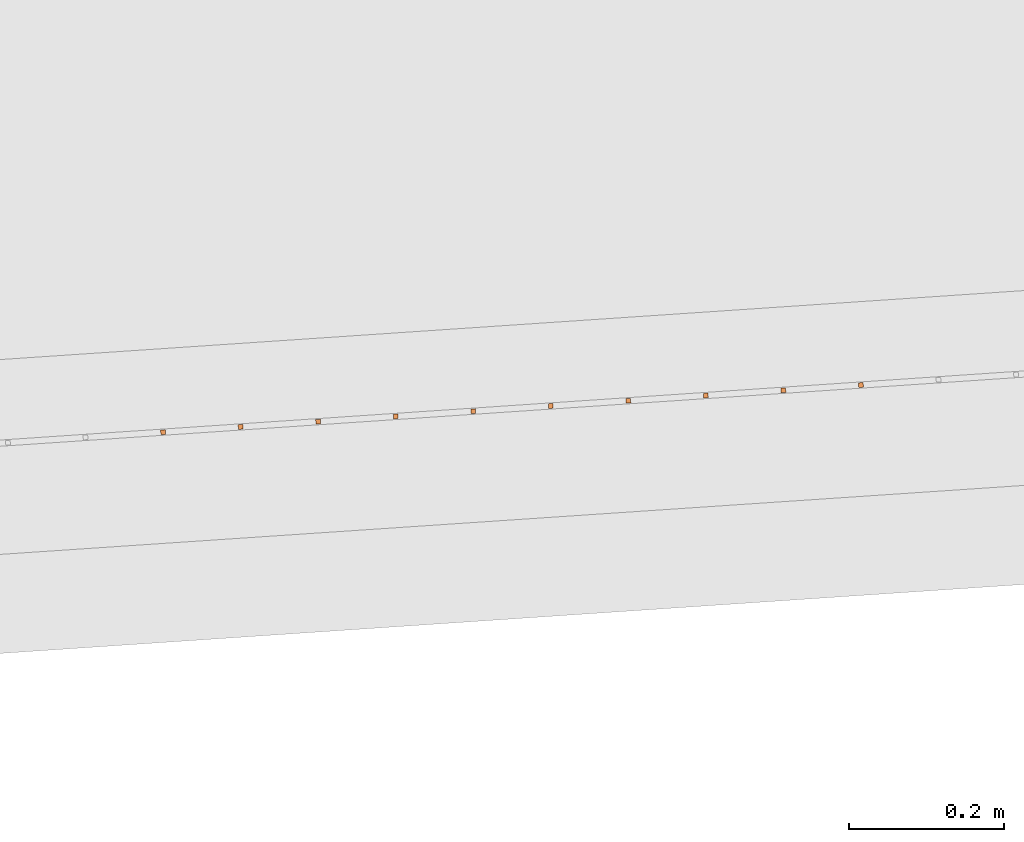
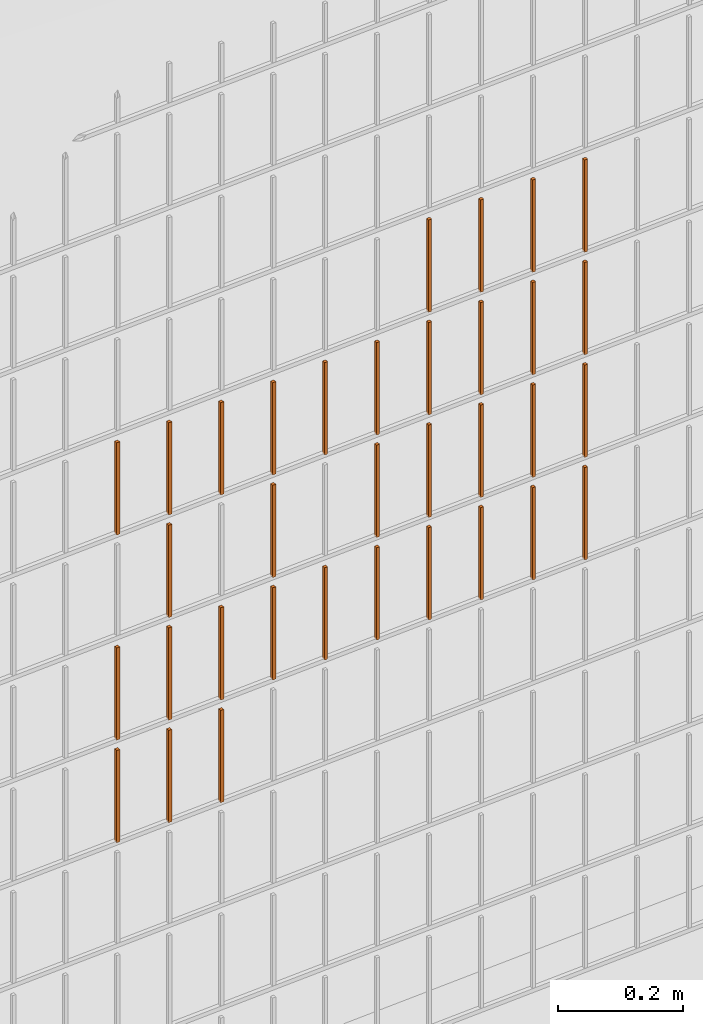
# One storey, part 302 of 1809: 34 proxies, 1 element without a shape of its own.
"""IFC2X3 building model written with IfcOpenShell, lengths in millimetres."""

import ifcopenshell
import ifcopenshell.guid

model = None  # the IFC model being written
_history = None  # IfcOwnerHistory: only IFC2X3 demands one
_inside = {}  # id of a spatial element -> (the spatial element, [elements in it])
_under = {}  # id of a project, library or spatial element -> (it, [spatial elements below it])
_declared = {}  # id of a project -> (the project, [libraries it declares])
_typed = {}  # id of a type object -> (the type object, [elements of that type])
_made_of = {}  # id of a material, layer set ... -> (it, [elements and type objects made of it])


def new_model(schema):
    """Start an empty IFC model of exactly this schema.

    Asked for "IFC4X3", IfcOpenShell would pick the latest addendum, in which some entities
    have other attributes; the version numbers below select the first issue.
    IFC2X3 requires an IfcOwnerHistory on every rooted entity: one is made here for all.
    """
    global model, _history
    if schema == "IFC4X3":
        model = ifcopenshell.file(schema_version=(4, 3, 0, 0))
    else:
        model = ifcopenshell.file(schema=schema)
    _inside.clear()
    _under.clear()
    _declared.clear()
    _typed.clear()
    _made_of.clear()
    _history = None
    if model.schema == "IFC2X3":
        org = make("IfcOrganization", Name="unknown")
        user = make(
            "IfcPersonAndOrganization",
            ThePerson=make("IfcPerson", FamilyName="unknown"),
            TheOrganization=org,
        )
        app = make(
            "IfcApplication",
            ApplicationDeveloper=org,
            Version="unknown",
            ApplicationFullName="unknown",
            ApplicationIdentifier="unknown",
        )
        _history = make(
            "IfcOwnerHistory",
            OwningUser=user,
            OwningApplication=app,
            ChangeAction="ADDED",
            CreationDate=0,
        )
    return model


def make(cls, **values):
    """One entity of the class cls with the attributes given. An attribute that is None is left unset."""
    return model.create_entity(
        cls, **{name: value for name, value in values.items() if value is not None}
    )


def entity(cls, *values):
    """Any entity or typed value of the class cls, its attributes in the order of the schema. None: left unset."""
    e = model.create_entity(cls)
    for i, value in enumerate(values):
        if value is not None:
            e[i] = value
    return e


def rooted(cls, **values):
    """An entity with a GlobalId (a new one), such as an element, a storey or a relation."""
    return make(cls, GlobalId=ifcopenshell.guid.new(), OwnerHistory=_history, **values)


def si_unit(unit_type, name, prefix=None):
    """IfcSIUnit, for example si_unit("LENGTHUNIT", "METRE", prefix="MILLI")."""
    return make("IfcSIUnit", UnitType=unit_type, Prefix=prefix, Name=name)


def converted_unit(unit_type, name, factor, base, dimensions=None, offset=None):
    """IfcConversionBasedUnit, such as the inch: factor (a typed value) times the base unit."""
    return make(
        "IfcConversionBasedUnit"
        if offset is None
        else "IfcConversionBasedUnitWithOffset",
        ConversionOffset=offset,
        Dimensions=None
        if dimensions is None
        else entity("IfcDimensionalExponents", *dimensions),
        UnitType=unit_type,
        Name=name,
        ConversionFactor=make(
            "IfcMeasureWithUnit", ValueComponent=factor, UnitComponent=base
        ),
    )


def derived_unit(unit_type, elements):
    """IfcDerivedUnit: a product of units, each with its exponent."""
    return make(
        "IfcDerivedUnit",
        Elements=[
            make("IfcDerivedUnitElement", Unit=unit, Exponent=power)
            for unit, power in elements
        ],
        UnitType=unit_type,
    )


def money_unit(currency):
    """IfcMonetaryUnit."""
    return make("IfcMonetaryUnit", Currency=currency)


def assignment(units):
    """IfcUnitAssignment: the units of a project."""
    return None if units is None else make("IfcUnitAssignment", Units=units)


def point(xyz):
    """IfcCartesianPoint."""
    return None if xyz is None else make("IfcCartesianPoint", Coordinates=xyz)


def direction(xyz):
    """IfcDirection."""
    return None if xyz is None else make("IfcDirection", DirectionRatios=xyz)


def frame(location, z_axis=None, x_axis=None):
    """IfcAxis2Placement3D, a coordinate frame: its origin and axes. An axis left out is left unset."""
    return make(
        "IfcAxis2Placement3D",
        Location=point(location),
        Axis=direction(z_axis),
        RefDirection=direction(x_axis),
    )


def origin_with_axes():
    """The frame at (0, 0, 0) with the z axis (0, 0, 1) and the x axis (1, 0, 0) written out."""
    return frame((0.0, 0.0, 0.0), z_axis=(0.0, 0.0, 1.0), x_axis=(1.0, 0.0, 0.0))


def place(relative_to, where):
    """IfcLocalPlacement: puts the frame where relative to a parent placement (None: the world)."""
    return make(
        "IfcLocalPlacement", PlacementRelTo=relative_to, RelativePlacement=where
    )


def context(
    kind, dimensions, precision=None, world=None, true_north=None, identifier=None
):
    """IfcGeometricRepresentationContext, for example the 3D "Model" context."""
    return make(
        "IfcGeometricRepresentationContext",
        ContextIdentifier=identifier,
        ContextType=kind,
        CoordinateSpaceDimension=dimensions,
        Precision=precision,
        WorldCoordinateSystem=world,
        TrueNorth=true_north,
    )


def subcontext(parent, identifier, kind, view, scale=None):
    """IfcGeometricRepresentationSubContext, for example "Body" below "Model"."""
    return make(
        "IfcGeometricRepresentationSubContext",
        ContextIdentifier=identifier,
        ContextType=kind,
        ParentContext=parent,
        TargetScale=scale,
        TargetView=view,
    )


def project(units=None, contexts=None):
    """IfcProject with its units and contexts."""
    return rooted(
        "IfcProject",
        Name="project",
        RepresentationContexts=contexts,
        UnitsInContext=assignment(units),
    )


def spatial(cls, under=None, at=None, **own):
    """A site, building, storey or space (cls), placed at a placement, below another one or the project."""
    s = rooted(cls, ObjectPlacement=at, **own)
    if under is not None:
        _under.setdefault(under.id(), (under, []))[1].append(s)
    return s


def faces_of(points, faces, orient=None, outer=None):
    """IfcFace entities. A face is a list of loops; a loop is a list of indices into points, from 0.

    orient and outer hold one flag for each loop. By default every Orientation is true, the
    first loop of a face is its IfcFaceOuterBound and the others are IfcFaceBound.
    """
    made = []
    for i, loops in enumerate(faces):
        bounds = []
        for j, loop in enumerate(loops):
            is_outer = j == 0 if outer is None else outer[i][j]
            bounds.append(
                make(
                    "IfcFaceOuterBound" if is_outer else "IfcFaceBound",
                    Bound=make("IfcPolyLoop", Polygon=[points[k] for k in loop]),
                    Orientation=True if orient is None else orient[i][j],
                )
            )
        made.append(make("IfcFace", Bounds=bounds))
    return made


def faceted_brep(points, faces, orient=None, outer=None, voids=None):
    """IfcFacetedBrep: a solid bounded by flat faces; with voids (closed shells), ...WithVoids."""
    shared = [point(p) for p in points]
    hull = make("IfcClosedShell", CfsFaces=faces_of(shared, faces, orient, outer))
    if voids is None:
        return make("IfcFacetedBrep", Outer=hull)
    return make(
        "IfcFacetedBrepWithVoids",
        Outer=hull,
        Voids=[
            make(cls, CfsFaces=faces_of(shared, fs, o, b)) for cls, fs, o, b in voids
        ],
    )


def shape(context_of_items, identifier, shape_type, items):
    """IfcShapeRepresentation: the items that make up one representation, for example the "Body"."""
    return make(
        "IfcShapeRepresentation",
        ContextOfItems=context_of_items,
        RepresentationIdentifier=identifier,
        RepresentationType=shape_type,
        Items=items,
    )


def source(mapping_origin, context_of_items, identifier, shape_type, items):
    """IfcRepresentationMap: a shape defined once, which mapped items show again and again."""
    return make(
        "IfcRepresentationMap",
        MappingOrigin=mapping_origin,
        MappedRepresentation=shape(context_of_items, identifier, shape_type, items),
    )


def transform(
    local_origin,
    x_axis=None,
    y_axis=None,
    z_axis=None,
    scale=None,
    scale2=None,
    scale3=None,
    uniform=True,
):
    """IfcCartesianTransformationOperator3D, or its non-uniform kind. x_axis, y_axis, z_axis: its Axis1, 2, 3."""
    if uniform:
        return make(
            "IfcCartesianTransformationOperator3D",
            Axis1=direction(x_axis),
            Axis2=direction(y_axis),
            LocalOrigin=point(local_origin),
            Scale=scale,
            Axis3=direction(z_axis),
        )
    return make(
        "IfcCartesianTransformationOperator3DnonUniform",
        Axis1=direction(x_axis),
        Axis2=direction(y_axis),
        LocalOrigin=point(local_origin),
        Scale=scale,
        Axis3=direction(z_axis),
        Scale2=scale2,
        Scale3=scale3,
    )


def mapped(mapping_source, mapping_target):
    """IfcMappedItem: shows the shape of a source again, moved by a transform."""
    return make(
        "IfcMappedItem", MappingSource=mapping_source, MappingTarget=mapping_target
    )


def material(Name=None, Category=None):
    """IfcMaterial."""
    return make("IfcMaterial", Name=Name, Category=Category)


def made_of(thing, what):
    """Note that an element or type object is made of a material, layer set ...; save() writes the relation."""
    if what is not None:
        _made_of.setdefault(what.id(), (what, []))[1].append(thing)
    return thing


def type_object(cls, material=None, **own):
    """A type object (cls), such as IfcWallType, which elements share."""
    return made_of(rooted(cls, **own), material)


def element(
    cls,
    number,
    at=None,
    inside=None,
    cuts=None,
    type_object=None,
    material=None,
    context=None,
    identifier="Body",
    shape_type=None,
    held_by="IfcProductDefinitionShape",
    body=None,
    shapes=None,
    **own,
):
    """One element of the class cls, such as IfcWall. Its Tag is "e" and its number.

    at: its placement. inside: the storey or other place that contains it. cuts: it is an
    opening in that element (IfcRelVoidsElement). A single representation is given by context,
    identifier, shape_type and body (its items); several are given by shapes. held_by: the class
    of the entity that holds the representations. save() writes the other relations.
    """
    e = rooted(cls, Tag="e%d" % number, ObjectPlacement=at, **own)
    if body is not None:
        shapes = [shape(context, identifier, shape_type, body)]
    if shapes is not None:
        e.Representation = make(held_by, Representations=shapes)
    if inside is not None:
        _inside.setdefault(inside.id(), (inside, []))[1].append(e)
    if cuts is not None:
        rooted(
            "IfcRelVoidsElement", RelatingBuildingElement=cuts, RelatedOpeningElement=e
        )
    if type_object is not None:
        _typed.setdefault(type_object.id(), (type_object, []))[1].append(e)
    return made_of(e, material)


def aggregate(whole, parts):
    """IfcRelAggregates: a whole, such as a stair, and the parts it consists of."""
    return rooted("IfcRelAggregates", RelatingObject=whole, RelatedObjects=parts)


def save(model, path):
    """Write the relations noted so far, then the file.

    IfcRelAggregates (storeys below a building ...), IfcRelContainedInSpatialStructure (elements
    in a storey), IfcRelDefinesByType, IfcRelAssociatesMaterial and IfcRelDeclares: one each for
    every whole, place, type object, material and project.
    """
    for whole, parts in _under.values():
        aggregate(whole, parts)
    for where, things in _inside.values():
        rooted(
            "IfcRelContainedInSpatialStructure",
            RelatedElements=things,
            RelatingStructure=where,
        )
    for kind, things in _typed.values():
        rooted("IfcRelDefinesByType", RelatedObjects=things, RelatingType=kind)
    for what, things in _made_of.values():
        rooted("IfcRelAssociatesMaterial", RelatedObjects=things, RelatingMaterial=what)
    for by, libraries in _declared.values():
        rooted("IfcRelDeclares", RelatingContext=by, RelatedDefinitions=libraries)
    model.write(path)


model = new_model("IFC2X3")

# Units and contexts
model_context = context("Model", 3, precision=0.01, world=origin_with_axes(), true_north=direction((0.0, 1.0)))
body_context = subcontext(model_context, "Body", "Model", "MODEL_VIEW")
ifc_project = project(units=[si_unit("LENGTHUNIT", "METRE", prefix="MILLI"), si_unit("AREAUNIT", "SQUARE_METRE"), si_unit("VOLUMEUNIT", "CUBIC_METRE"), converted_unit("PLANEANGLEUNIT", "DEGREE", entity("IfcPlaneAngleMeasure", 0.0174532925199), si_unit("PLANEANGLEUNIT", "RADIAN"), dimensions=[0, 0, 0, 0, 0, 0, 0]), si_unit("SOLIDANGLEUNIT", "STERADIAN"), money_unit("EUR"), converted_unit("TIMEUNIT", "Year", entity("IfcTimeMeasure", 31556926.0), si_unit("TIMEUNIT", "SECOND"), dimensions=[0, 0, 1, 0, 0, 0, 0]), si_unit("MASSUNIT", "GRAM", prefix="KILO"), si_unit("THERMODYNAMICTEMPERATUREUNIT", "DEGREE_CELSIUS"), si_unit("LUMINOUSINTENSITYUNIT", "LUMEN"), si_unit("ENERGYUNIT", "JOULE", prefix="MEGA"), derived_unit("THERMALCONDUCTANCEUNIT", [(si_unit("POWERUNIT", "WATT"), 1), (si_unit("LENGTHUNIT", "METRE"), -1), (si_unit("THERMODYNAMICTEMPERATUREUNIT", "KELVIN"), -1)]), derived_unit("SPECIFICHEATCAPACITYUNIT", [(si_unit("ENERGYUNIT", "JOULE"), 1), (si_unit("MASSUNIT", "GRAM", prefix="KILO"), -1), (si_unit("THERMODYNAMICTEMPERATUREUNIT", "KELVIN"), -1)]), derived_unit("MASSDENSITYUNIT", [(si_unit("MASSUNIT", "GRAM", prefix="KILO"), 1), (si_unit("VOLUMEUNIT", "CUBIC_METRE"), -1)])], contexts=[model_context])

# Site, building, storey
site_placement = place(None, origin_with_axes())
site = spatial("IfcSite", under=ifc_project, at=site_placement, Name="Politse- ja Piirivalveameti ning Päästeameti ühishoone", CompositionType="ELEMENT")
building_placement = place(site_placement, origin_with_axes())
building = spatial("IfcBuilding", under=site, at=building_placement, Name="Politse- ja Piirivalveameti ning Päästeameti ühishoone", CompositionType="ELEMENT")
storey_placement = place(building_placement, origin_with_axes())
storey = spatial("IfcBuildingStorey", under=building, at=storey_placement, Name="Esimene korrus", CompositionType="ELEMENT", Elevation=0.0)

# Proxies
building_element_proxy_type_1 = type_object("IfcBuildingElementProxyType", Name="Railing Type", PredefinedType="NOTDEFINED")
proxy_1_placement = place(storey_placement, frame((89252.001212, -29183.4766571, 203.661247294), z_axis=(0.0, 0.0, 1.0), x_axis=(1.0, 0.0, 0.0)))
proxy_1 = element("IfcBuildingElementProxy", 1, at=proxy_1_placement, inside=storey, type_object=building_element_proxy_type_1, Name="PIIRDEAED")
ifc_material = material(Name="ET-03_Raud")
building_element_proxy_type_2 = type_object("IfcBuildingElementProxyType", Name="IfcBuildingElementProxy", PredefinedType="NOTDEFINED")
shared_shape_1 = source(origin_with_axes(), body_context, "Body", "Brep", [
    faceted_brep([(3.0, 3.0, -0.000752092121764), (-3.0, 3.0, -0.000752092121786), (-3.0, 3.0, 179.99926046), (3.0, 3.0, 179.99926046), (3.0, -3.0, 0.000752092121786), (-3.0, -3.0, 0.000752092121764), (-3.0, -3.0, 180.000764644), (3.0, -3.0, 180.000764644)], [[[0, 1, 2, 3]], [[0, 4, 5, 1]], [[1, 5, 6, 2]], [[3, 2, 6, 7]], [[4, 0, 3, 7]], [[5, 4, 7, 6]]]),
])
proxy_2_placement = place(proxy_1_placement, frame((-43926.5946254, -20264.8504556, 1216.19701045), z_axis=(0.0, 0.0, 1.0), x_axis=(1.0, 0.0, 0.0)))
proxy_2 = element("IfcBuildingElementProxy", 2, at=proxy_2_placement, type_object=building_element_proxy_type_2, material=ifc_material, Name="BALUSTER - 001", context=body_context, shape_type="MappedRepresentation", body=[
    mapped(shared_shape_1, transform((0.0, 0.0, 0.0), x_axis=(-0.0673926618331, 0.997726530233, 0.0), y_axis=(-0.997726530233, -0.0673926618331, 0.0), z_axis=(0.0, 0.0, 1.0))),
])
shared_shape_2 = source(origin_with_axes(), body_context, "Body", "Brep", [
    faceted_brep([(3.0, 3.0, -0.000752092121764), (-3.0, 3.0, -0.000752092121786), (-3.0, 3.0, 179.99926046), (3.0, 3.0, 179.99926046), (3.0, -3.0, 0.000752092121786), (-3.0, -3.0, 0.000752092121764), (-3.0, -3.0, 180.000764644), (3.0, -3.0, 180.000764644)], [[[0, 1, 2, 3]], [[0, 4, 5, 1]], [[1, 5, 6, 2]], [[3, 2, 6, 7]], [[4, 0, 3, 7]], [[5, 4, 7, 6]]]),
])
proxy_3_placement = place(proxy_1_placement, frame((-43826.8219724, -20258.1111894, 1216.22208019), z_axis=(0.0, 0.0, 1.0), x_axis=(1.0, 0.0, 0.0)))
proxy_3 = element("IfcBuildingElementProxy", 3, at=proxy_3_placement, type_object=building_element_proxy_type_2, material=ifc_material, Name="BALUSTER - 001", context=body_context, shape_type="MappedRepresentation", body=[
    mapped(shared_shape_2, transform((0.0, 0.0, 0.0), x_axis=(-0.0673926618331, 0.997726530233, 0.0), y_axis=(-0.997726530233, -0.0673926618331, 0.0), z_axis=(0.0, 0.0, 1.0))),
])
shared_shape_3 = source(origin_with_axes(), body_context, "Body", "Brep", [
    faceted_brep([(3.0, 3.0, -0.000752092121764), (-3.0, 3.0, -0.000752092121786), (-3.0, 3.0, 179.99926046), (3.0, 3.0, 179.99926046), (3.0, -3.0, 0.000752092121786), (-3.0, -3.0, 0.000752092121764), (-3.0, -3.0, 180.000764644), (3.0, -3.0, 180.000764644)], [[[0, 1, 2, 3]], [[0, 4, 5, 1]], [[1, 5, 6, 2]], [[3, 2, 6, 7]], [[4, 0, 3, 7]], [[5, 4, 7, 6]]]),
])
proxy_4_placement = place(proxy_1_placement, frame((-43926.5946254, -20264.8504556, 616.197010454), z_axis=(0.0, 0.0, 1.0), x_axis=(1.0, 0.0, 0.0)))
proxy_4 = element("IfcBuildingElementProxy", 4, at=proxy_4_placement, type_object=building_element_proxy_type_2, material=ifc_material, Name="BALUSTER - 001", context=body_context, shape_type="MappedRepresentation", body=[
    mapped(shared_shape_3, transform((0.0, 0.0, 0.0), x_axis=(-0.0673926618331, 0.997726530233, 0.0), y_axis=(-0.997726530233, -0.0673926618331, 0.0), z_axis=(0.0, 0.0, 1.0))),
])
shared_shape_4 = source(origin_with_axes(), body_context, "Body", "Brep", [
    faceted_brep([(3.0, 3.0, -0.000752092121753), (-3.0, 3.0, -0.000752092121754), (-3.0, 3.0, 179.99926046), (3.0, 3.0, 179.99926046), (3.0, -3.0, 0.000752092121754), (-3.0, -3.0, 0.000752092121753), (-3.0, -3.0, 180.000764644), (3.0, -3.0, 180.000764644)], [[[0, 1, 2, 3]], [[0, 4, 5, 1]], [[1, 5, 6, 2]], [[3, 2, 6, 7]], [[4, 0, 3, 7]], [[5, 4, 7, 6]]]),
])
proxy_5_placement = place(proxy_1_placement, frame((-43427.7313603, -20231.1541247, 1216.32235914), z_axis=(0.0, 0.0, 1.0), x_axis=(1.0, 0.0, 0.0)))
proxy_5 = element("IfcBuildingElementProxy", 5, at=proxy_5_placement, type_object=building_element_proxy_type_2, material=ifc_material, Name="BALUSTER - 001", context=body_context, shape_type="MappedRepresentation", body=[
    mapped(shared_shape_4, transform((0.0, 0.0, 0.0), x_axis=(-0.0673926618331, 0.997726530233, 0.0), y_axis=(-0.997726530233, -0.0673926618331, 0.0), z_axis=(0.0, 0.0, 1.0))),
])
shared_shape_5 = source(origin_with_axes(), body_context, "Body", "Brep", [
    faceted_brep([(3.0, 3.0, -0.000752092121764), (-3.0, 3.0, -0.000752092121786), (-3.0, 3.0, 179.99926046), (3.0, 3.0, 179.99926046), (3.0, -3.0, 0.000752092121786), (-3.0, -3.0, 0.000752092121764), (-3.0, -3.0, 180.000764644), (3.0, -3.0, 180.000764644)], [[[0, 1, 2, 3]], [[0, 4, 5, 1]], [[1, 5, 6, 2]], [[3, 2, 6, 7]], [[4, 0, 3, 7]], [[5, 4, 7, 6]]]),
])
proxy_6_placement = place(proxy_1_placement, frame((-43926.5946254, -20264.8504556, 816.197010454), z_axis=(0.0, 0.0, 1.0), x_axis=(1.0, 0.0, 0.0)))
proxy_6 = element("IfcBuildingElementProxy", 6, at=proxy_6_placement, type_object=building_element_proxy_type_2, material=ifc_material, Name="BALUSTER - 001", context=body_context, shape_type="MappedRepresentation", body=[
    mapped(shared_shape_5, transform((0.0, 0.0, 0.0), x_axis=(-0.0673926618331, 0.997726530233, 0.0), y_axis=(-0.997726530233, -0.0673926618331, 0.0), z_axis=(0.0, 0.0, 1.0))),
])
shared_shape_6 = source(origin_with_axes(), body_context, "Body", "Brep", [
    faceted_brep([(3.0, 3.0, -0.000752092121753), (-3.0, 3.0, -0.000752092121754), (-3.0, 3.0, 179.99926046), (3.0, 3.0, 179.99926046), (3.0, -3.0, 0.000752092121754), (-3.0, -3.0, 0.000752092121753), (-3.0, -3.0, 180.000764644), (3.0, -3.0, 180.000764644)], [[[0, 1, 2, 3]], [[0, 4, 5, 1]], [[1, 5, 6, 2]], [[3, 2, 6, 7]], [[4, 0, 3, 7]], [[5, 4, 7, 6]]]),
])
proxy_7_placement = place(proxy_1_placement, frame((-43427.7313603, -20231.1541247, 1416.32235914), z_axis=(0.0, 0.0, 1.0), x_axis=(1.0, 0.0, 0.0)))
proxy_7 = element("IfcBuildingElementProxy", 7, at=proxy_7_placement, type_object=building_element_proxy_type_2, material=ifc_material, Name="BALUSTER - 001", context=body_context, shape_type="MappedRepresentation", body=[
    mapped(shared_shape_6, transform((0.0, 0.0, 0.0), x_axis=(-0.0673926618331, 0.997726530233, 0.0), y_axis=(-0.997726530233, -0.0673926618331, 0.0), z_axis=(0.0, 0.0, 1.0))),
])
shared_shape_7 = source(origin_with_axes(), body_context, "Body", "Brep", [
    faceted_brep([(3.0, 3.0, -0.000752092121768), (-3.0, 3.0, -0.000752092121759), (-3.00000000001, 2.99999999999, 179.99926046), (2.99999999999, 2.99999999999, 179.99926046), (3.0, -3.0, 0.000752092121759), (-3.0, -3.0, 0.000752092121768), (-3.00000000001, -3.00000000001, 180.000764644), (2.99999999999, -3.00000000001, 180.000764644)], [[[0, 1, 2, 3]], [[0, 4, 5, 1]], [[1, 5, 6, 2]], [[3, 2, 6, 7]], [[4, 0, 3, 7]], [[5, 4, 7, 6]]]),
])
proxy_8_placement = place(proxy_1_placement, frame((-43228.1860543, -20217.6755923, 1016.37249862), z_axis=(0.0, 0.0, 1.0), x_axis=(1.0, 0.0, 0.0)))
proxy_8 = element("IfcBuildingElementProxy", 8, at=proxy_8_placement, type_object=building_element_proxy_type_2, material=ifc_material, Name="BALUSTER - 001", context=body_context, shape_type="MappedRepresentation", body=[
    mapped(shared_shape_7, transform((0.0, 0.0, 0.0), x_axis=(-0.0673926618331, 0.997726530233, 0.0), y_axis=(-0.997726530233, -0.0673926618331, 0.0), z_axis=(0.0, 0.0, 1.0))),
])
proxy_9_placement = place(proxy_1_placement, frame((-43527.5040133, -20237.8933908, 1016.2972894), z_axis=(0.0, 0.0, 1.0), x_axis=(1.0, 0.0, 0.0)))
proxy_9 = element("IfcBuildingElementProxy", 9, at=proxy_9_placement, type_object=building_element_proxy_type_2, material=ifc_material, Name="BALUSTER - 001", context=body_context, shape_type="MappedRepresentation", body=[
    mapped(shared_shape_7, transform((0.0, 0.0, 0.0), x_axis=(-0.0673926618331, 0.997726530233, 0.0), y_axis=(-0.997726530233, -0.0673926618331, 0.0), z_axis=(0.0, 0.0, 1.0))),
])
shared_shape_8 = source(origin_with_axes(), body_context, "Body", "Brep", [
    faceted_brep([(3.0, 3.0, -0.000752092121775), (-3.0, 3.0, -0.000752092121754), (-3.0, 3.0, 179.99926046), (3.0, 3.0, 179.99926046), (3.0, -3.0, 0.000752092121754), (-3.0, -3.0, 0.000752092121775), (-3.0, -3.0, 180.000764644), (3.0, -3.0, 180.000764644)], [[[0, 1, 2, 3]], [[0, 4, 5, 1]], [[1, 5, 6, 2]], [[3, 2, 6, 7]], [[4, 0, 3, 7]], [[5, 4, 7, 6]]]),
])
proxy_10_placement = place(proxy_1_placement, frame((-43627.2766664, -20244.632657, 816.272219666), z_axis=(0.0, 0.0, 1.0), x_axis=(1.0, 0.0, 0.0)))
proxy_10 = element("IfcBuildingElementProxy", 10, at=proxy_10_placement, type_object=building_element_proxy_type_2, material=ifc_material, Name="BALUSTER - 001", context=body_context, shape_type="MappedRepresentation", body=[
    mapped(shared_shape_8, transform((0.0, 0.0, 0.0), x_axis=(-0.0673926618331, 0.997726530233, 0.0), y_axis=(-0.997726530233, -0.0673926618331, 0.0), z_axis=(0.0, 0.0, 1.0))),
])
proxy_11_placement = place(proxy_1_placement, frame((-43627.2766664, -20244.632657, 1216.27221967), z_axis=(0.0, 0.0, 1.0), x_axis=(1.0, 0.0, 0.0)))
proxy_11 = element("IfcBuildingElementProxy", 11, at=proxy_11_placement, type_object=building_element_proxy_type_2, material=ifc_material, Name="BALUSTER - 001", context=body_context, shape_type="MappedRepresentation", body=[
    mapped(shared_shape_8, transform((0.0, 0.0, 0.0), x_axis=(-0.0673926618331, 0.997726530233, 0.0), y_axis=(-0.997726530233, -0.0673926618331, 0.0), z_axis=(0.0, 0.0, 1.0))),
])
shared_shape_9 = source(origin_with_axes(), body_context, "Body", "Brep", [
    faceted_brep([(3.0, 3.0, -0.000752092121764), (-3.0, 3.0, -0.000752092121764), (-3.0, 3.0, 179.99926046), (3.0, 3.0, 179.99926046), (3.0, -3.0, 0.000752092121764), (-3.0, -3.0, 0.000752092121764), (-3.0, -3.0, 180.000764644), (3.0, -3.0, 180.000764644)], [[[0, 1, 2, 3]], [[0, 4, 5, 1]], [[1, 5, 6, 2]], [[3, 2, 6, 7]], [[4, 0, 3, 7]], [[5, 4, 7, 6]]]),
])
proxy_12_placement = place(proxy_1_placement, frame((-43527.5040133, -20237.8933908, 1216.2972894), z_axis=(0.0, 0.0, 1.0), x_axis=(1.0, 0.0, 0.0)))
proxy_12 = element("IfcBuildingElementProxy", 12, at=proxy_12_placement, type_object=building_element_proxy_type_2, material=ifc_material, Name="BALUSTER - 001", context=body_context, shape_type="MappedRepresentation", body=[
    mapped(shared_shape_9, transform((0.0, 0.0, 0.0), x_axis=(-0.0673926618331, 0.997726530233, 0.0), y_axis=(-0.997726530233, -0.0673926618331, 0.0), z_axis=(0.0, 0.0, 1.0))),
])
shared_shape_10 = source(origin_with_axes(), body_context, "Body", "Brep", [
    faceted_brep([(3.0, 3.0, -0.000752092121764), (-3.0, 3.0, -0.000752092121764), (-3.0, 3.0, 179.99926046), (3.0, 3.0, 179.99926046), (3.0, -3.0, 0.000752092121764), (-3.0, -3.0, 0.000752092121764), (-3.0, -3.0, 180.000764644), (3.0, -3.0, 180.000764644)], [[[0, 1, 2, 3]], [[0, 4, 5, 1]], [[1, 5, 6, 2]], [[3, 2, 6, 7]], [[4, 0, 3, 7]], [[5, 4, 7, 6]]]),
])
proxy_13_placement = place(proxy_1_placement, frame((-43727.0493194, -20251.3719232, 816.247149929), z_axis=(0.0, 0.0, 1.0), x_axis=(1.0, 0.0, 0.0)))
proxy_13 = element("IfcBuildingElementProxy", 13, at=proxy_13_placement, type_object=building_element_proxy_type_2, material=ifc_material, Name="BALUSTER - 001", context=body_context, shape_type="MappedRepresentation", body=[
    mapped(shared_shape_10, transform((0.0, 0.0, 0.0), x_axis=(-0.0673926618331, 0.997726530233, 0.0), y_axis=(-0.997726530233, -0.0673926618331, 0.0), z_axis=(0.0, 0.0, 1.0))),
])
proxy_14_placement = place(proxy_1_placement, frame((-43727.0493194, -20251.3719232, 1216.24714993), z_axis=(0.0, 0.0, 1.0), x_axis=(1.0, 0.0, 0.0)))
proxy_14 = element("IfcBuildingElementProxy", 14, at=proxy_14_placement, type_object=building_element_proxy_type_2, material=ifc_material, Name="BALUSTER - 001", context=body_context, shape_type="MappedRepresentation", body=[
    mapped(shared_shape_10, transform((0.0, 0.0, 0.0), x_axis=(-0.0673926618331, 0.997726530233, 0.0), y_axis=(-0.997726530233, -0.0673926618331, 0.0), z_axis=(0.0, 0.0, 1.0))),
])
shared_shape_11 = source(origin_with_axes(), body_context, "Body", "Brep", [
    faceted_brep([(3.0, 3.0, -0.000752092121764), (-3.0, 3.0, -0.000752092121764), (-3.0, 3.0, 179.99926046), (3.0, 3.0, 179.99926046), (3.0, -3.0, 0.000752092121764), (-3.0, -3.0, 0.000752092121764), (-3.0, -3.0, 180.000764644), (3.0, -3.0, 180.000764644)], [[[0, 1, 2, 3]], [[0, 4, 5, 1]], [[1, 5, 6, 2]], [[3, 2, 6, 7]], [[4, 0, 3, 7]], [[5, 4, 7, 6]]]),
])
proxy_15_placement = place(proxy_1_placement, frame((-43527.5040133, -20237.8933908, 1416.2972894), z_axis=(0.0, 0.0, 1.0), x_axis=(1.0, 0.0, 0.0)))
proxy_15 = element("IfcBuildingElementProxy", 15, at=proxy_15_placement, type_object=building_element_proxy_type_2, material=ifc_material, Name="BALUSTER - 001", context=body_context, shape_type="MappedRepresentation", body=[
    mapped(shared_shape_11, transform((0.0, 0.0, 0.0), x_axis=(-0.0673926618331, 0.997726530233, 0.0), y_axis=(-0.997726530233, -0.0673926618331, 0.0), z_axis=(0.0, 0.0, 1.0))),
])
shared_shape_12 = source(origin_with_axes(), body_context, "Body", "Brep", [
    faceted_brep([(3.0, 3.0, -0.000752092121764), (-3.0, 3.0, -0.000752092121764), (-3.0, 3.0, 179.99926046), (3.0, 3.0, 179.99926046), (3.0, -3.0, 0.000752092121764), (-3.0, -3.0, 0.000752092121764), (-3.0, -3.0, 180.000764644), (3.0, -3.0, 180.000764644)], [[[0, 1, 2, 3]], [[0, 4, 5, 1]], [[1, 5, 6, 2]], [[3, 2, 6, 7]], [[4, 0, 3, 7]], [[5, 4, 7, 6]]]),
])
proxy_16_placement = place(proxy_1_placement, frame((-43527.5040133, -20237.8933908, 816.297289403), z_axis=(0.0, 0.0, 1.0), x_axis=(1.0, 0.0, 0.0)))
proxy_16 = element("IfcBuildingElementProxy", 16, at=proxy_16_placement, type_object=building_element_proxy_type_2, material=ifc_material, Name="BALUSTER - 001", context=body_context, shape_type="MappedRepresentation", body=[
    mapped(shared_shape_12, transform((0.0, 0.0, 0.0), x_axis=(-0.0673926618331, 0.997726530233, 0.0), y_axis=(-0.997726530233, -0.0673926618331, 0.0), z_axis=(0.0, 0.0, 1.0))),
])
shared_shape_13 = source(origin_with_axes(), body_context, "Body", "Brep", [
    faceted_brep([(3.0, 3.0, -0.000752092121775), (-3.0, 3.0, -0.000752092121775), (-3.0, 3.0, 179.99926046), (3.0, 3.0, 179.99926046), (3.0, -3.0, 0.000752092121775), (-3.0, -3.0, 0.000752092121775), (-3.0, -3.0, 180.000764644), (3.0, -3.0, 180.000764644)], [[[0, 1, 2, 3]], [[0, 4, 5, 1]], [[1, 5, 6, 2]], [[3, 2, 6, 7]], [[4, 0, 3, 7]], [[5, 4, 7, 6]]]),
])
proxy_17_placement = place(proxy_1_placement, frame((-43327.9587073, -20224.4148585, 1416.34742888), z_axis=(0.0, 0.0, 1.0), x_axis=(1.0, 0.0, 0.0)))
proxy_17 = element("IfcBuildingElementProxy", 17, at=proxy_17_placement, type_object=building_element_proxy_type_2, material=ifc_material, Name="BALUSTER - 001", context=body_context, shape_type="MappedRepresentation", body=[
    mapped(shared_shape_13, transform((0.0, 0.0, 0.0), x_axis=(-0.0673926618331, 0.997726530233, 0.0), y_axis=(-0.997726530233, -0.0673926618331, 0.0), z_axis=(0.0, 0.0, 1.0))),
])
shared_shape_14 = source(origin_with_axes(), body_context, "Body", "Brep", [
    faceted_brep([(3.0, 3.0, -0.000752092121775), (-3.0, 3.0, -0.000752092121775), (-3.0, 3.0, 179.99926046), (3.0, 3.0, 179.99926046), (3.0, -3.0, 0.000752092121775), (-3.0, -3.0, 0.000752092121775), (-3.0, -3.0, 180.000764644), (3.0, -3.0, 180.000764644)], [[[0, 1, 2, 3]], [[0, 4, 5, 1]], [[1, 5, 6, 2]], [[3, 2, 6, 7]], [[4, 0, 3, 7]], [[5, 4, 7, 6]]]),
])
proxy_18_placement = place(proxy_1_placement, frame((-43327.9587073, -20224.4148585, 816.347428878), z_axis=(0.0, 0.0, 1.0), x_axis=(1.0, 0.0, 0.0)))
proxy_18 = element("IfcBuildingElementProxy", 18, at=proxy_18_placement, type_object=building_element_proxy_type_2, material=ifc_material, Name="BALUSTER - 001", context=body_context, shape_type="MappedRepresentation", body=[
    mapped(shared_shape_14, transform((0.0, 0.0, 0.0), x_axis=(-0.0673926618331, 0.997726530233, 0.0), y_axis=(-0.997726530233, -0.0673926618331, 0.0), z_axis=(0.0, 0.0, 1.0))),
])
proxy_19_placement = place(proxy_1_placement, frame((-43327.9587073, -20224.4148585, 1216.34742888), z_axis=(0.0, 0.0, 1.0), x_axis=(1.0, 0.0, 0.0)))
proxy_19 = element("IfcBuildingElementProxy", 19, at=proxy_19_placement, type_object=building_element_proxy_type_2, material=ifc_material, Name="BALUSTER - 001", context=body_context, shape_type="MappedRepresentation", body=[
    mapped(shared_shape_14, transform((0.0, 0.0, 0.0), x_axis=(-0.0673926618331, 0.997726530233, 0.0), y_axis=(-0.997726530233, -0.0673926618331, 0.0), z_axis=(0.0, 0.0, 1.0))),
])
shared_shape_15 = source(origin_with_axes(), body_context, "Body", "Brep", [
    faceted_brep([(3.0, 3.0, -0.000752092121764), (-3.0, 3.0, -0.000752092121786), (-3.0, 3.0, 179.99926046), (3.0, 3.0, 179.99926046), (3.0, -3.0, 0.000752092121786), (-3.0, -3.0, 0.000752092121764), (-3.0, -3.0, 180.000764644), (3.0, -3.0, 180.000764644)], [[[0, 1, 2, 3]], [[0, 4, 5, 1]], [[1, 5, 6, 2]], [[3, 2, 6, 7]], [[4, 0, 3, 7]], [[5, 4, 7, 6]]]),
])
proxy_20_placement = place(proxy_1_placement, frame((-43826.8219724, -20258.1111894, 816.222080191), z_axis=(0.0, 0.0, 1.0), x_axis=(1.0, 0.0, 0.0)))
proxy_20 = element("IfcBuildingElementProxy", 20, at=proxy_20_placement, type_object=building_element_proxy_type_2, material=ifc_material, Name="BALUSTER - 001", context=body_context, shape_type="MappedRepresentation", body=[
    mapped(shared_shape_15, transform((0.0, 0.0, 0.0), x_axis=(-0.0673926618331, 0.997726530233, 0.0), y_axis=(-0.997726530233, -0.0673926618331, 0.0), z_axis=(0.0, 0.0, 1.0))),
])
shared_shape_16 = source(origin_with_axes(), body_context, "Body", "Brep", [
    faceted_brep([(3.0, 3.0, -0.000752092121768), (-3.0, 3.0, -0.000752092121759), (-3.00000000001, 2.99999999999, 179.99926046), (2.99999999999, 2.99999999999, 179.99926046), (3.0, -3.0, 0.000752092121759), (-3.0, -3.0, 0.000752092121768), (-3.00000000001, -3.00000000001, 180.000764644), (2.99999999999, -3.00000000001, 180.000764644)], [[[0, 1, 2, 3]], [[0, 4, 5, 1]], [[1, 5, 6, 2]], [[3, 2, 6, 7]], [[4, 0, 3, 7]], [[5, 4, 7, 6]]]),
])
proxy_21_placement = place(proxy_1_placement, frame((-43826.8219724, -20258.1111894, 1016.22208019), z_axis=(0.0, 0.0, 1.0), x_axis=(1.0, 0.0, 0.0)))
proxy_21 = element("IfcBuildingElementProxy", 21, at=proxy_21_placement, type_object=building_element_proxy_type_2, material=ifc_material, Name="BALUSTER - 001", context=body_context, shape_type="MappedRepresentation", body=[
    mapped(shared_shape_16, transform((0.0, 0.0, 0.0), x_axis=(-0.0673926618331, 0.997726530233, 0.0), y_axis=(-0.997726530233, -0.0673926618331, 0.0), z_axis=(0.0, 0.0, 1.0))),
])
shared_shape_17 = source(origin_with_axes(), body_context, "Body", "Brep", [
    faceted_brep([(3.0, 3.0, -0.000752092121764), (-3.0, 3.0, -0.000752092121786), (-3.0, 3.0, 179.99926046), (3.0, 3.0, 179.99926046), (3.0, -3.0, 0.000752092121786), (-3.0, -3.0, 0.000752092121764), (-3.0, -3.0, 180.000764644), (3.0, -3.0, 180.000764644)], [[[0, 1, 2, 3]], [[0, 4, 5, 1]], [[1, 5, 6, 2]], [[3, 2, 6, 7]], [[4, 0, 3, 7]], [[5, 4, 7, 6]]]),
])
proxy_22_placement = place(proxy_1_placement, frame((-43228.1860543, -20217.6755923, 1216.37249862), z_axis=(0.0, 0.0, 1.0), x_axis=(1.0, 0.0, 0.0)))
proxy_22 = element("IfcBuildingElementProxy", 22, at=proxy_22_placement, type_object=building_element_proxy_type_2, material=ifc_material, Name="BALUSTER - 001", context=body_context, shape_type="MappedRepresentation", body=[
    mapped(shared_shape_17, transform((0.0, 0.0, 0.0), x_axis=(-0.0673926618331, 0.997726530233, 0.0), y_axis=(-0.997726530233, -0.0673926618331, 0.0), z_axis=(0.0, 0.0, 1.0))),
])
shared_shape_18 = source(origin_with_axes(), body_context, "Body", "Brep", [
    faceted_brep([(3.0, 3.0, -0.000752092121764), (-3.0, 3.0, -0.000752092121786), (-3.0, 3.0, 179.99926046), (3.0, 3.0, 179.99926046), (3.0, -3.0, 0.000752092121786), (-3.0, -3.0, 0.000752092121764), (-3.0, -3.0, 180.000764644), (3.0, -3.0, 180.000764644)], [[[0, 1, 2, 3]], [[0, 4, 5, 1]], [[1, 5, 6, 2]], [[3, 2, 6, 7]], [[4, 0, 3, 7]], [[5, 4, 7, 6]]]),
])
proxy_23_placement = place(proxy_1_placement, frame((-43228.1860543, -20217.6755923, 1416.37249862), z_axis=(0.0, 0.0, 1.0), x_axis=(1.0, 0.0, 0.0)))
proxy_23 = element("IfcBuildingElementProxy", 23, at=proxy_23_placement, type_object=building_element_proxy_type_2, material=ifc_material, Name="BALUSTER - 001", context=body_context, shape_type="MappedRepresentation", body=[
    mapped(shared_shape_18, transform((0.0, 0.0, 0.0), x_axis=(-0.0673926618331, 0.997726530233, 0.0), y_axis=(-0.997726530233, -0.0673926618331, 0.0), z_axis=(0.0, 0.0, 1.0))),
])
shared_shape_19 = source(origin_with_axes(), body_context, "Body", "Brep", [
    faceted_brep([(3.0, 3.0, -0.000752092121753), (-3.0, 3.0, -0.000752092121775), (-3.0, 3.0, 179.99926046), (3.0, 3.0, 179.99926046), (3.0, -3.0, 0.000752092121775), (-3.0, -3.0, 0.000752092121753), (-3.0, -3.0, 180.000764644), (3.0, -3.0, 180.000764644)], [[[0, 1, 2, 3]], [[0, 4, 5, 1]], [[1, 5, 6, 2]], [[3, 2, 6, 7]], [[4, 0, 3, 7]], [[5, 4, 7, 6]]]),
])
proxy_24_placement = place(proxy_1_placement, frame((-43427.7313603, -20231.1541247, 816.322359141), z_axis=(0.0, 0.0, 1.0), x_axis=(1.0, 0.0, 0.0)))
proxy_24 = element("IfcBuildingElementProxy", 24, at=proxy_24_placement, type_object=building_element_proxy_type_2, material=ifc_material, Name="BALUSTER - 001", context=body_context, shape_type="MappedRepresentation", body=[
    mapped(shared_shape_19, transform((0.0, 0.0, 0.0), x_axis=(-0.0673926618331, 0.997726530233, 0.0), y_axis=(-0.997726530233, -0.0673926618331, 0.0), z_axis=(0.0, 0.0, 1.0))),
])
proxy_25_placement = place(proxy_1_placement, frame((-44026.3672785, -20271.5897218, 816.171940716), z_axis=(0.0, 0.0, 1.0), x_axis=(1.0, 0.0, 0.0)))
proxy_25 = element("IfcBuildingElementProxy", 25, at=proxy_25_placement, type_object=building_element_proxy_type_2, material=ifc_material, Name="BALUSTER - 001", context=body_context, shape_type="MappedRepresentation", body=[
    mapped(shared_shape_19, transform((0.0, 0.0, 0.0), x_axis=(-0.0673926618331, 0.997726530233, 0.0), y_axis=(-0.997726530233, -0.0673926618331, 0.0), z_axis=(0.0, 0.0, 1.0))),
])
proxy_26_placement = place(proxy_1_placement, frame((-44026.3672785, -20271.5897218, 1216.17194072), z_axis=(0.0, 0.0, 1.0), x_axis=(1.0, 0.0, 0.0)))
proxy_26 = element("IfcBuildingElementProxy", 26, at=proxy_26_placement, type_object=building_element_proxy_type_2, material=ifc_material, Name="BALUSTER - 001", context=body_context, shape_type="MappedRepresentation", body=[
    mapped(shared_shape_19, transform((0.0, 0.0, 0.0), x_axis=(-0.0673926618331, 0.997726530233, 0.0), y_axis=(-0.997726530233, -0.0673926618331, 0.0), z_axis=(0.0, 0.0, 1.0))),
])
shared_shape_20 = source(origin_with_axes(), body_context, "Body", "Brep", [
    faceted_brep([(3.0, 3.0, -0.000752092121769), (-3.0, 3.0, -0.000752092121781), (-3.00000000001, 3.0, 179.99926046), (2.99999999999, 3.0, 179.99926046), (3.0, -3.0, 0.000752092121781), (-3.0, -3.0, 0.000752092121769), (-3.00000000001, -3.0, 180.000764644), (2.99999999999, -3.0, 180.000764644)], [[[0, 1, 2, 3]], [[0, 4, 5, 1]], [[1, 5, 6, 2]], [[3, 2, 6, 7]], [[4, 0, 3, 7]], [[5, 4, 7, 6]]]),
])
proxy_27_placement = place(proxy_1_placement, frame((-43427.7313603, -20231.1541247, 1016.32235914), z_axis=(0.0, 0.0, 1.0), x_axis=(1.0, 0.0, 0.0)))
proxy_27 = element("IfcBuildingElementProxy", 27, at=proxy_27_placement, type_object=building_element_proxy_type_2, material=ifc_material, Name="BALUSTER - 001", context=body_context, shape_type="MappedRepresentation", body=[
    mapped(shared_shape_20, transform((0.0, 0.0, 0.0), x_axis=(-0.0673926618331, 0.997726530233, 0.0), y_axis=(-0.997726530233, -0.0673926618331, 0.0), z_axis=(0.0, 0.0, 1.0))),
])
shared_shape_21 = source(origin_with_axes(), body_context, "Body", "Brep", [
    faceted_brep([(3.0, 3.0, -0.000752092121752), (-3.0, 3.0, -0.000752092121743), (-3.00000000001, 2.99999999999, 179.99926046), (2.99999999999, 2.99999999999, 179.99926046), (3.0, -3.0, 0.000752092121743), (-3.0, -3.0, 0.000752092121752), (-3.00000000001, -3.00000000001, 180.000764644), (2.99999999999, -3.00000000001, 180.000764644)], [[[0, 1, 2, 3]], [[0, 4, 5, 1]], [[1, 5, 6, 2]], [[3, 2, 6, 7]], [[4, 0, 3, 7]], [[5, 4, 7, 6]]]),
])
proxy_28_placement = place(proxy_1_placement, frame((-44026.3672785, -20271.5897218, 1016.17194072), z_axis=(0.0, 0.0, 1.0), x_axis=(1.0, 0.0, 0.0)))
proxy_28 = element("IfcBuildingElementProxy", 28, at=proxy_28_placement, type_object=building_element_proxy_type_2, material=ifc_material, Name="BALUSTER - 001", context=body_context, shape_type="MappedRepresentation", body=[
    mapped(shared_shape_21, transform((0.0, 0.0, 0.0), x_axis=(-0.0673926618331, 0.997726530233, 0.0), y_axis=(-0.997726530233, -0.0673926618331, 0.0), z_axis=(0.0, 0.0, 1.0))),
])
shared_shape_22 = source(origin_with_axes(), body_context, "Body", "Brep", [
    faceted_brep([(3.0, 3.0, -0.000752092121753), (-3.0, 3.0, -0.000752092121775), (-3.0, 3.0, 179.99926046), (3.0, 3.0, 179.99926046), (3.0, -3.0, 0.000752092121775), (-3.0, -3.0, 0.000752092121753), (-3.0, -3.0, 180.000764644), (3.0, -3.0, 180.000764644)], [[[0, 1, 2, 3]], [[0, 4, 5, 1]], [[1, 5, 6, 2]], [[3, 2, 6, 7]], [[4, 0, 3, 7]], [[5, 4, 7, 6]]]),
])
proxy_29_placement = place(proxy_1_placement, frame((-44126.1399315, -20278.3289879, 1216.14687098), z_axis=(0.0, 0.0, 1.0), x_axis=(1.0, 0.0, 0.0)))
proxy_29 = element("IfcBuildingElementProxy", 29, at=proxy_29_placement, type_object=building_element_proxy_type_2, material=ifc_material, Name="BALUSTER - 001", context=body_context, shape_type="MappedRepresentation", body=[
    mapped(shared_shape_22, transform((0.0, 0.0, 0.0), x_axis=(-0.0673926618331, 0.997726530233, 0.0), y_axis=(-0.997726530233, -0.0673926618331, 0.0), z_axis=(0.0, 0.0, 1.0))),
])
shared_shape_23 = source(origin_with_axes(), body_context, "Body", "Brep", [
    faceted_brep([(3.0, 3.0, -0.000752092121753), (-3.0, 3.0, -0.000752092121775), (-3.0, 3.0, 179.99926046), (3.0, 3.0, 179.99926046), (3.0, -3.0, 0.000752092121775), (-3.0, -3.0, 0.000752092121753), (-3.0, -3.0, 180.000764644), (3.0, -3.0, 180.000764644)], [[[0, 1, 2, 3]], [[0, 4, 5, 1]], [[1, 5, 6, 2]], [[3, 2, 6, 7]], [[4, 0, 3, 7]], [[5, 4, 7, 6]]]),
])
proxy_30_placement = place(proxy_1_placement, frame((-44126.1399315, -20278.3289879, 616.146870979), z_axis=(0.0, 0.0, 1.0), x_axis=(1.0, 0.0, 0.0)))
proxy_30 = element("IfcBuildingElementProxy", 30, at=proxy_30_placement, type_object=building_element_proxy_type_2, material=ifc_material, Name="BALUSTER - 001", context=body_context, shape_type="MappedRepresentation", body=[
    mapped(shared_shape_23, transform((0.0, 0.0, 0.0), x_axis=(-0.0673926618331, 0.997726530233, 0.0), y_axis=(-0.997726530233, -0.0673926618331, 0.0), z_axis=(0.0, 0.0, 1.0))),
])
proxy_31_placement = place(proxy_1_placement, frame((-43228.1860543, -20217.6755923, 816.372498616), z_axis=(0.0, 0.0, 1.0), x_axis=(1.0, 0.0, 0.0)))
proxy_31 = element("IfcBuildingElementProxy", 31, at=proxy_31_placement, type_object=building_element_proxy_type_2, material=ifc_material, Name="BALUSTER - 001", context=body_context, shape_type="MappedRepresentation", body=[
    mapped(shared_shape_23, transform((0.0, 0.0, 0.0), x_axis=(-0.0673926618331, 0.997726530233, 0.0), y_axis=(-0.997726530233, -0.0673926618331, 0.0), z_axis=(0.0, 0.0, 1.0))),
])
proxy_32_placement = place(proxy_1_placement, frame((-44126.1399315, -20278.3289879, 816.146870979), z_axis=(0.0, 0.0, 1.0), x_axis=(1.0, 0.0, 0.0)))
proxy_32 = element("IfcBuildingElementProxy", 32, at=proxy_32_placement, type_object=building_element_proxy_type_2, material=ifc_material, Name="BALUSTER - 001", context=body_context, shape_type="MappedRepresentation", body=[
    mapped(shared_shape_23, transform((0.0, 0.0, 0.0), x_axis=(-0.0673926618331, 0.997726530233, 0.0), y_axis=(-0.997726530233, -0.0673926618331, 0.0), z_axis=(0.0, 0.0, 1.0))),
])
shared_shape_24 = source(origin_with_axes(), body_context, "Body", "Brep", [
    faceted_brep([(3.0, 3.0, -0.000752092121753), (-3.0, 3.0, -0.000752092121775), (-3.0, 3.0, 179.99926046), (3.0, 3.0, 179.99926046), (3.0, -3.0, 0.000752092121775), (-3.0, -3.0, 0.000752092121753), (-3.0, -3.0, 180.000764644), (3.0, -3.0, 180.000764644)], [[[0, 1, 2, 3]], [[0, 4, 5, 1]], [[1, 5, 6, 2]], [[3, 2, 6, 7]], [[4, 0, 3, 7]], [[5, 4, 7, 6]]]),
])
proxy_33_placement = place(proxy_1_placement, frame((-44026.3672785, -20271.5897218, 616.171940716), z_axis=(0.0, 0.0, 1.0), x_axis=(1.0, 0.0, 0.0)))
proxy_33 = element("IfcBuildingElementProxy", 33, at=proxy_33_placement, type_object=building_element_proxy_type_2, material=ifc_material, Name="BALUSTER - 001", context=body_context, shape_type="MappedRepresentation", body=[
    mapped(shared_shape_24, transform((0.0, 0.0, 0.0), x_axis=(-0.0673926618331, 0.997726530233, 0.0), y_axis=(-0.997726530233, -0.0673926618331, 0.0), z_axis=(0.0, 0.0, 1.0))),
])
shared_shape_25 = source(origin_with_axes(), body_context, "Body", "Brep", [
    faceted_brep([(3.0, 3.0, -0.000752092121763), (-3.0, 3.0, -0.000752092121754), (-3.00000000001, 2.99999999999, 179.99926046), (2.99999999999, 2.99999999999, 179.99926046), (3.0, -3.0, 0.000752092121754), (-3.0, -3.0, 0.000752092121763), (-3.00000000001, -3.00000000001, 180.000764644), (2.99999999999, -3.00000000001, 180.000764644)], [[[0, 1, 2, 3]], [[0, 4, 5, 1]], [[1, 5, 6, 2]], [[3, 2, 6, 7]], [[4, 0, 3, 7]], [[5, 4, 7, 6]]]),
])
proxy_34_placement = place(proxy_1_placement, frame((-43327.9587073, -20224.4148585, 1016.34742888), z_axis=(0.0, 0.0, 1.0), x_axis=(1.0, 0.0, 0.0)))
proxy_34 = element("IfcBuildingElementProxy", 34, at=proxy_34_placement, type_object=building_element_proxy_type_2, material=ifc_material, Name="BALUSTER - 001", context=body_context, shape_type="MappedRepresentation", body=[
    mapped(shared_shape_25, transform((0.0, 0.0, 0.0), x_axis=(-0.0673926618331, 0.997726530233, 0.0), y_axis=(-0.997726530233, -0.0673926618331, 0.0), z_axis=(0.0, 0.0, 1.0))),
])
shared_shape_26 = source(origin_with_axes(), body_context, "Body", "Brep", [
    faceted_brep([(3.0, 3.0, -0.000752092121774), (-3.0, 3.0, -0.000752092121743), (-3.00000000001, 2.99999999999, 179.99926046), (2.99999999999, 2.99999999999, 179.99926046), (3.0, -3.0, 0.000752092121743), (-3.0, -3.0, 0.000752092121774), (-3.00000000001, -3.00000000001, 180.000764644), (2.99999999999, -3.00000000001, 180.000764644)], [[[0, 1, 2, 3]], [[0, 4, 5, 1]], [[1, 5, 6, 2]], [[3, 2, 6, 7]], [[4, 0, 3, 7]], [[5, 4, 7, 6]]]),
])
proxy_35_placement = place(proxy_1_placement, frame((-43627.2766664, -20244.632657, 1016.27221967), z_axis=(0.0, 0.0, 1.0), x_axis=(1.0, 0.0, 0.0)))
proxy_35 = element("IfcBuildingElementProxy", 35, at=proxy_35_placement, type_object=building_element_proxy_type_2, material=ifc_material, Name="BALUSTER - 001", context=body_context, shape_type="MappedRepresentation", body=[
    mapped(shared_shape_26, transform((0.0, 0.0, 0.0), x_axis=(-0.0673926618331, 0.997726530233, 0.0), y_axis=(-0.997726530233, -0.0673926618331, 0.0), z_axis=(0.0, 0.0, 1.0))),
])
aggregate(proxy_1, [proxy_4, proxy_33, proxy_30, proxy_31, proxy_18, proxy_24, proxy_16, proxy_10, proxy_13, proxy_20, proxy_6, proxy_25, proxy_32, proxy_8, proxy_34, proxy_27, proxy_9, proxy_35, proxy_21, proxy_28, proxy_22, proxy_19, proxy_5, proxy_12, proxy_11, proxy_14, proxy_3, proxy_2, proxy_26, proxy_29, proxy_23, proxy_17, proxy_7, proxy_15])

save(model, "model.ifc")
